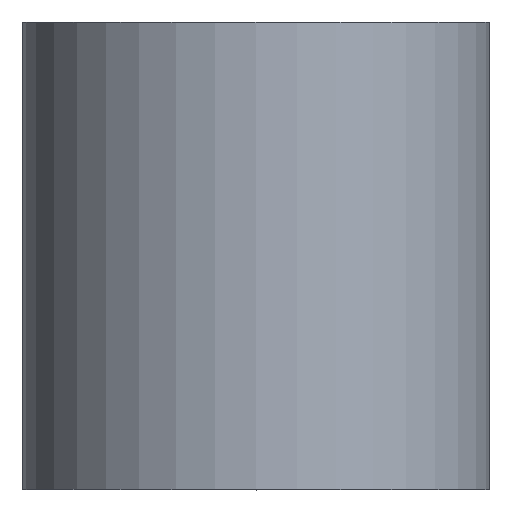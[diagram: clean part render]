
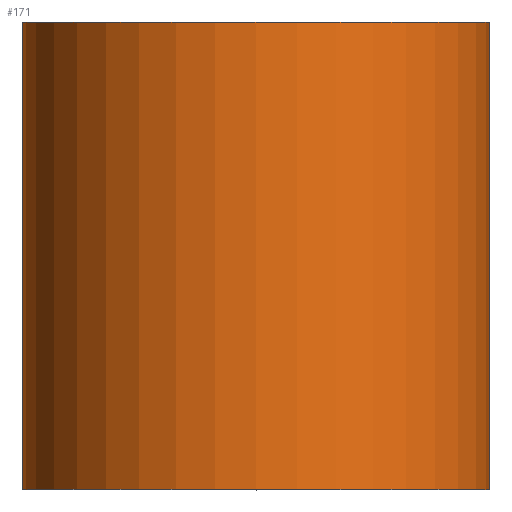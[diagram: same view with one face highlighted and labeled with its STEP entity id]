
A CAD part, top view. The second image highlights one B-rep face of the part: STEP entity #171.
In plain terms, the highlighted cylindrical face has radius 8 mm (diameter 16 mm), a full revolution.
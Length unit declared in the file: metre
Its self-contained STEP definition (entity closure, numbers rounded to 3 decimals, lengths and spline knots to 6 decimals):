
#20=CIRCLE('',#194,0.008);
#21=CIRCLE('',#195,0.008);
#22=CYLINDRICAL_SURFACE('',#193,0.008);
#47=ORIENTED_EDGE('',*,*,#81,.F.);
#48=ORIENTED_EDGE('',*,*,#82,.T.);
#81=EDGE_CURVE('',#95,#95,#20,.T.);
#82=EDGE_CURVE('',#96,#96,#21,.T.);
#95=VERTEX_POINT('',#279);
#96=VERTEX_POINT('',#281);
#139=EDGE_LOOP('',(#47));
#140=EDGE_LOOP('',(#48));
#151=FACE_BOUND('',#139,.T.);
#152=FACE_BOUND('',#140,.T.);
#171=ADVANCED_FACE('',(#151,#152),#22,.T.);
#193=AXIS2_PLACEMENT_3D('',#277,#230,#231);
#194=AXIS2_PLACEMENT_3D('',#278,#232,#233);
#195=AXIS2_PLACEMENT_3D('',#280,#234,#235);
#230=DIRECTION('',(0.,1.,0.));
#231=DIRECTION('',(0.,0.,1.));
#232=DIRECTION('',(0.,-1.,0.));
#233=DIRECTION('',(0.,0.,-1.));
#234=DIRECTION('',(0.,-1.,0.));
#235=DIRECTION('',(0.,0.,-1.));
#277=CARTESIAN_POINT('',(0.,-0.016,0.));
#278=CARTESIAN_POINT('',(0.,-0.016,0.));
#279=CARTESIAN_POINT('',(0.,-0.016,-0.008));
#280=CARTESIAN_POINT('',(0.,0.,0.));
#281=CARTESIAN_POINT('',(0.,0.,-0.008));
